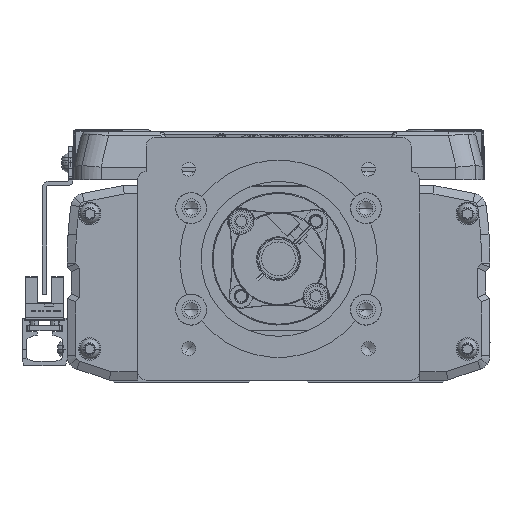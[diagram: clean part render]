
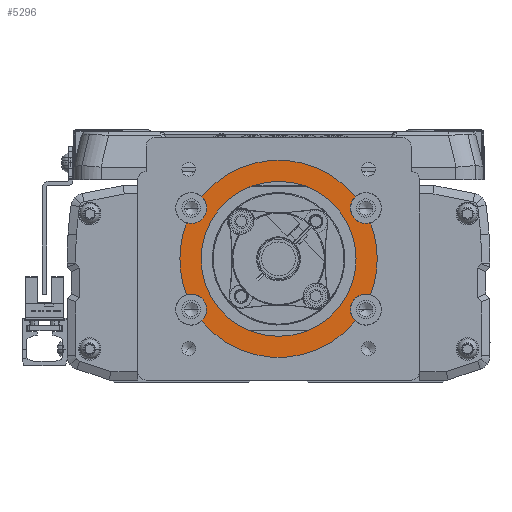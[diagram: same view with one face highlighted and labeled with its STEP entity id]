
A CAD part, left-side view. The second image highlights one B-rep face of the part: STEP entity #5296.
In plain terms, the highlighted planar face has unit normal (-1, 0, 0).
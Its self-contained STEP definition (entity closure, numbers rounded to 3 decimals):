
#5296=ADVANCED_FACE('',(#13378,#13379),#13380,.F.);
#13378=FACE_OUTER_BOUND('',#25530,.T.);
#13379=FACE_BOUND('',#25531,.T.);
#13380=PLANE('',#25532);
#25530=EDGE_LOOP('',(#40908,#40909,#40910,#40911,#40912,#40913,#40914,#40915,#40916,#40917,#40918,#40919,#40920,#40921));
#25531=EDGE_LOOP('',(#40922,#40923));
#25532=AXIS2_PLACEMENT_3D('',#40924,#40925,#40926);
#40908=ORIENTED_EDGE('',*,*,#72512,.F.);
#40909=ORIENTED_EDGE('',*,*,#72513,.T.);
#40910=ORIENTED_EDGE('',*,*,#72514,.T.);
#40911=ORIENTED_EDGE('',*,*,#72515,.F.);
#40912=ORIENTED_EDGE('',*,*,#72516,.F.);
#40913=ORIENTED_EDGE('',*,*,#72517,.T.);
#40914=ORIENTED_EDGE('',*,*,#72518,.F.);
#40915=ORIENTED_EDGE('',*,*,#72519,.F.);
#40916=ORIENTED_EDGE('',*,*,#70431,.T.);
#40917=ORIENTED_EDGE('',*,*,#72520,.T.);
#40918=ORIENTED_EDGE('',*,*,#72521,.F.);
#40919=ORIENTED_EDGE('',*,*,#72522,.F.);
#40920=ORIENTED_EDGE('',*,*,#72523,.T.);
#40921=ORIENTED_EDGE('',*,*,#70778,.F.);
#40922=ORIENTED_EDGE('',*,*,#72524,.F.);
#40923=ORIENTED_EDGE('',*,*,#71531,.F.);
#40924=CARTESIAN_POINT('',(-69.,0.,0.));
#40925=DIRECTION('',(1.0,0.,0.));
#40926=DIRECTION('',(0.,1.0,0.));
#70431=EDGE_CURVE('',#83466,#83464,#83467,.T.);
#70778=EDGE_CURVE('',#84086,#84088,#84089,.T.);
#71531=EDGE_CURVE('',#85426,#85428,#85429,.T.);
#72512=EDGE_CURVE('',#87141,#84086,#87142,.T.);
#72513=EDGE_CURVE('',#87141,#87143,#87144,.T.);
#72514=EDGE_CURVE('',#87143,#87145,#87146,.T.);
#72515=EDGE_CURVE('',#87147,#87145,#87148,.T.);
#72516=EDGE_CURVE('',#87149,#87147,#87150,.T.);
#72517=EDGE_CURVE('',#87149,#87151,#87152,.T.);
#72518=EDGE_CURVE('',#87153,#87151,#87154,.T.);
#72519=EDGE_CURVE('',#83466,#87153,#87155,.T.);
#72520=EDGE_CURVE('',#83464,#87156,#87157,.T.);
#72521=EDGE_CURVE('',#87158,#87156,#87159,.T.);
#72522=EDGE_CURVE('',#87160,#87158,#87161,.T.);
#72523=EDGE_CURVE('',#87160,#84088,#87162,.T.);
#72524=EDGE_CURVE('',#85428,#85426,#87163,.T.);
#83464=VERTEX_POINT('',#102505);
#83466=VERTEX_POINT('',#102508);
#83467=CIRCLE('',#102509,35.0);
#84086=VERTEX_POINT('',#103365);
#84088=VERTEX_POINT('',#103368);
#84089=CIRCLE('',#103369,5.5);
#85426=VERTEX_POINT('',#106107);
#85428=VERTEX_POINT('',#106110);
#85429=CIRCLE('',#106111,27.5);
#87141=VERTEX_POINT('',#108360);
#87142=CIRCLE('',#108361,5.5);
#87143=VERTEX_POINT('',#108362);
#87144=CIRCLE('',#108363,35.0);
#87145=VERTEX_POINT('',#108364);
#87146=CIRCLE('',#108365,35.0);
#87147=VERTEX_POINT('',#108366);
#87148=CIRCLE('',#108367,5.5);
#87149=VERTEX_POINT('',#108368);
#87150=CIRCLE('',#108369,5.5);
#87151=VERTEX_POINT('',#108370);
#87152=CIRCLE('',#108371,35.0);
#87153=VERTEX_POINT('',#108372);
#87154=CIRCLE('',#108373,5.5);
#87155=CIRCLE('',#108374,5.5);
#87156=VERTEX_POINT('',#108375);
#87157=CIRCLE('',#108376,35.0);
#87158=VERTEX_POINT('',#108377);
#87159=CIRCLE('',#108378,5.5);
#87160=VERTEX_POINT('',#108379);
#87161=CIRCLE('',#108380,5.5);
#87162=CIRCLE('',#108381,35.0);
#87163=CIRCLE('',#108382,27.5);
#102505=CARTESIAN_POINT('',(-69.,-35.,0.));
#102508=CARTESIAN_POINT('',(-69.,-32.6,-12.738));
#102509=AXIS2_PLACEMENT_3D('',#129720,#129721,#129722);
#103365=CARTESIAN_POINT('',(-69.,25.5,18.));
#103368=CARTESIAN_POINT('',(-69.,27.223,21.998));
#103369=AXIS2_PLACEMENT_3D('',#130241,#130242,#130243);
#106107=CARTESIAN_POINT('',(-69.,27.5,0.));
#106110=CARTESIAN_POINT('',(-69.,-27.5,0.));
#106111=AXIS2_PLACEMENT_3D('',#131377,#131378,#131379);
#108360=CARTESIAN_POINT('',(-69.,32.6,12.738));
#108361=AXIS2_PLACEMENT_3D('',#132909,#132910,#132911);
#108362=CARTESIAN_POINT('',(-69.,35.,0.));
#108363=AXIS2_PLACEMENT_3D('',#132912,#132913,#132914);
#108364=CARTESIAN_POINT('',(-69.,32.6,-12.738));
#108365=AXIS2_PLACEMENT_3D('',#132915,#132916,#132917);
#108366=CARTESIAN_POINT('',(-69.,25.5,-18.));
#108367=AXIS2_PLACEMENT_3D('',#132918,#132919,#132920);
#108368=CARTESIAN_POINT('',(-69.,27.223,-21.998));
#108369=AXIS2_PLACEMENT_3D('',#132921,#132922,#132923);
#108370=CARTESIAN_POINT('',(-69.,-27.223,-21.998));
#108371=AXIS2_PLACEMENT_3D('',#132924,#132925,#132926);
#108372=CARTESIAN_POINT('',(-69.,-25.5,-18.));
#108373=AXIS2_PLACEMENT_3D('',#132927,#132928,#132929);
#108374=AXIS2_PLACEMENT_3D('',#132930,#132931,#132932);
#108375=CARTESIAN_POINT('',(-69.,-32.6,12.738));
#108376=AXIS2_PLACEMENT_3D('',#132933,#132934,#132935);
#108377=CARTESIAN_POINT('',(-69.,-25.5,18.));
#108378=AXIS2_PLACEMENT_3D('',#132936,#132937,#132938);
#108379=CARTESIAN_POINT('',(-69.,-27.223,21.998));
#108380=AXIS2_PLACEMENT_3D('',#132939,#132940,#132941);
#108381=AXIS2_PLACEMENT_3D('',#132942,#132943,#132944);
#108382=AXIS2_PLACEMENT_3D('',#132945,#132946,#132947);
#129720=CARTESIAN_POINT('',(-69.,0.,0.));
#129721=DIRECTION('',(-1.0,0.,0.));
#129722=DIRECTION('',(0.,1.0,0.));
#130241=CARTESIAN_POINT('',(-69.,31.,18.));
#130242=DIRECTION('',(-1.0,0.,0.));
#130243=DIRECTION('',(0.,1.0,0.));
#131377=CARTESIAN_POINT('',(-69.,0.,0.));
#131378=DIRECTION('',(-1.0,0.,0.));
#131379=DIRECTION('',(0.,1.0,0.));
#132909=CARTESIAN_POINT('',(-69.,31.,18.));
#132910=DIRECTION('',(-1.0,0.,0.));
#132911=DIRECTION('',(0.,1.0,0.));
#132912=CARTESIAN_POINT('',(-69.,0.,0.));
#132913=DIRECTION('',(-1.0,0.,0.));
#132914=DIRECTION('',(0.,1.0,0.));
#132915=CARTESIAN_POINT('',(-69.,0.,0.));
#132916=DIRECTION('',(-1.0,0.,0.));
#132917=DIRECTION('',(0.,1.0,0.));
#132918=CARTESIAN_POINT('',(-69.,31.,-18.));
#132919=DIRECTION('',(-1.0,0.,0.));
#132920=DIRECTION('',(0.,1.0,0.));
#132921=CARTESIAN_POINT('',(-69.,31.,-18.));
#132922=DIRECTION('',(-1.0,0.,0.));
#132923=DIRECTION('',(0.,1.0,0.));
#132924=CARTESIAN_POINT('',(-69.,0.,0.));
#132925=DIRECTION('',(-1.0,0.,0.));
#132926=DIRECTION('',(0.,1.0,0.));
#132927=CARTESIAN_POINT('',(-69.,-31.,-18.));
#132928=DIRECTION('',(-1.0,0.,0.));
#132929=DIRECTION('',(0.,-1.0,0.));
#132930=CARTESIAN_POINT('',(-69.,-31.,-18.));
#132931=DIRECTION('',(-1.0,0.,0.));
#132932=DIRECTION('',(0.,-1.0,0.));
#132933=CARTESIAN_POINT('',(-69.,0.,0.));
#132934=DIRECTION('',(-1.0,0.,0.));
#132935=DIRECTION('',(0.,1.0,0.));
#132936=CARTESIAN_POINT('',(-69.,-31.,18.));
#132937=DIRECTION('',(-1.0,0.,0.));
#132938=DIRECTION('',(0.,-1.0,0.));
#132939=CARTESIAN_POINT('',(-69.,-31.,18.));
#132940=DIRECTION('',(-1.0,0.,0.));
#132941=DIRECTION('',(0.,-1.0,0.));
#132942=CARTESIAN_POINT('',(-69.,0.,0.));
#132943=DIRECTION('',(-1.0,0.,0.));
#132944=DIRECTION('',(0.,1.0,0.));
#132945=CARTESIAN_POINT('',(-69.,0.,0.));
#132946=DIRECTION('',(-1.0,0.,0.));
#132947=DIRECTION('',(0.,1.0,0.));
